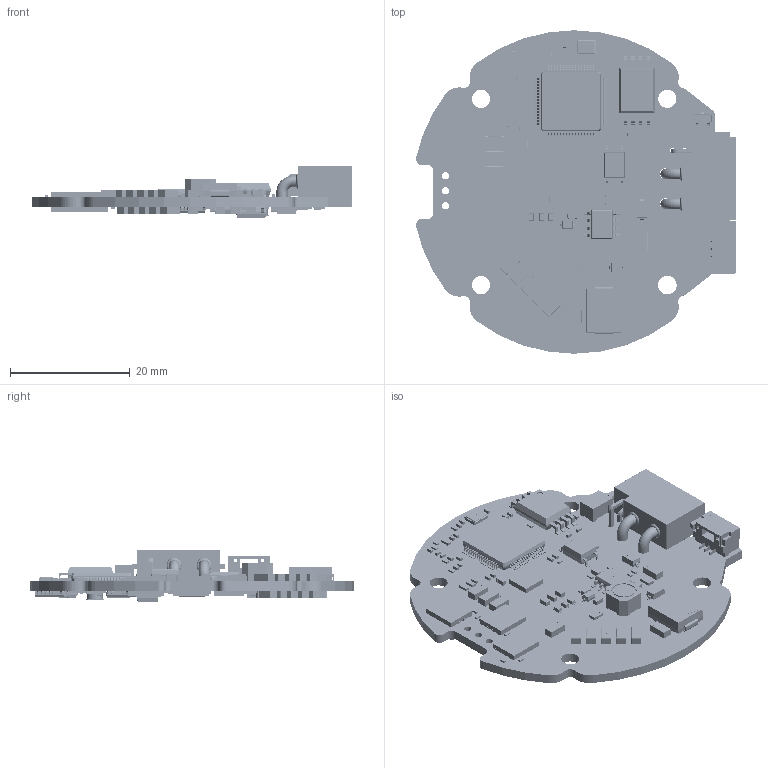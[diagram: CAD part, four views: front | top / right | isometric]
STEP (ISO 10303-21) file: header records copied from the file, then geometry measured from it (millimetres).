
FILE_DESCRIPTION(('Open CASCADE Model'),'2;1');
FILE_NAME('Open CASCADE Shape Model','2026-07-15T14:10:20',('Author'),( 'Open CASCADE'),'Open CASCADE STEP processor 6.8','Open CASCADE 6.8' ,'Unknown');
FILE_SCHEMA(('AUTOMOTIVE_DESIGN { 1 0 10303 214 1 1 1 1 }'));
Length unit declared in the file: millimetre
Products named in the file (286): PCB; Board; Open CASCADE STEP translator 6.8 1.1.1; RJ111; R_0603; LOGO?; CJ0; C_1206; U9; SOP-42; User_Library-HCPL-181-1_K_X_F6rper_1; User_Library-HCPL-181-1_Pins_1; U8; TSSOP14; TSSOP14_呿极; ﾒｽﾅ_0.9; LOGO?0.25; C58; C_0402; U15; TSSOP16; TSSOP16_呿极; R115; R_0402; R114; R113; R112; C100; P2; User_Library-XT30PW(2_+_2)_v6.1; R38; R73; P1_1; SM03B-GHS-TB; R37; D7; SMC; LOGOﾔｲ｣ｭ｣ｱ; C51; C_0603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
Assembly tree (559 placements, depth 4):
  PCB
    Board
      Open CASCADE STEP translator 6.8 1.1.1
    RJ111
      R_0603
        R_0603
        LOGO?
    CJ0
      C_1206
        LOGO?
        C_1206
    U9
      SOP-42
        User_Library-HCPL-181-1_K_X_F6rper_1
        User_Library-HCPL-181-1_Pins_1  x4
    U8
      TSSOP14
        TSSOP14_呿极
        ﾒｽﾅ_0.9  x14
        LOGO?0.25
    C58
      C_0402
        LOGO?
        C_0402
    U15
      TSSOP16
        TSSOP16_呿极
        ﾒｽﾅ_0.9  x16
        LOGO?0.25
    R115
      R_0402
        R_0402
        LOGO?
    R114
      R_0402
        R_0402
        LOGO?
    R113
      R_0402
        R_0402
        LOGO?
    R112
      R_0402
        R_0402
        LOGO?
    C100
      C_0402
        LOGO?
        C_0402
    P2
      User_Library-XT30PW(2_+_2)_v6.1
    R38
      R_0402
        R_0402
        LOGO?
    R73
      R_0402
        R_0402
        LOGO?
    P1_1
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Bounding box: 53.44 x 54.01 x 8.74 mm (x, y, z)
Volume: 4966.4 mm3; surface area: 9795.5 mm2
Topology: 3088 solids, 3088 shells, 43659 faces, 101742 edges, 64210 vertices
Faces by surface type: plane 22404, bspline 11454, cylinder 7883, sphere 1178, torus 726, revolution 8, cone 6
Full cylindrical faces by diameter (mm): 0.9 x2, 1.2 x3, 1.8 x2, 3.04 x3
Entity records: 317169 total; most frequent: CARTESIAN_POINT 115306, ORIENTED_EDGE 34208, DIRECTION 27539, EDGE_CURVE 17104, VERTEX_POINT 10999, LINE 10743, VECTOR 10743, AXIS2_PLACEMENT_3D 8394
